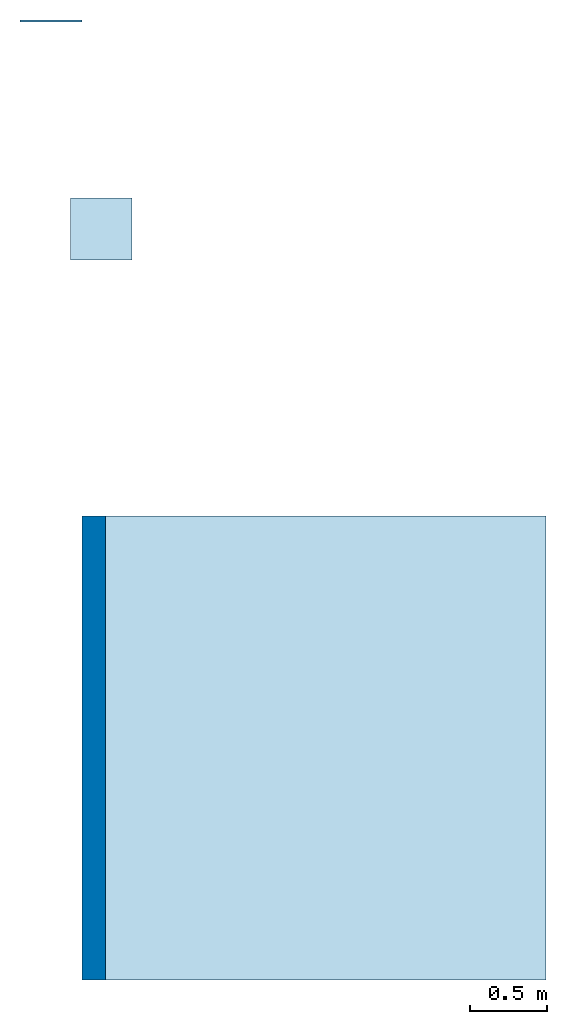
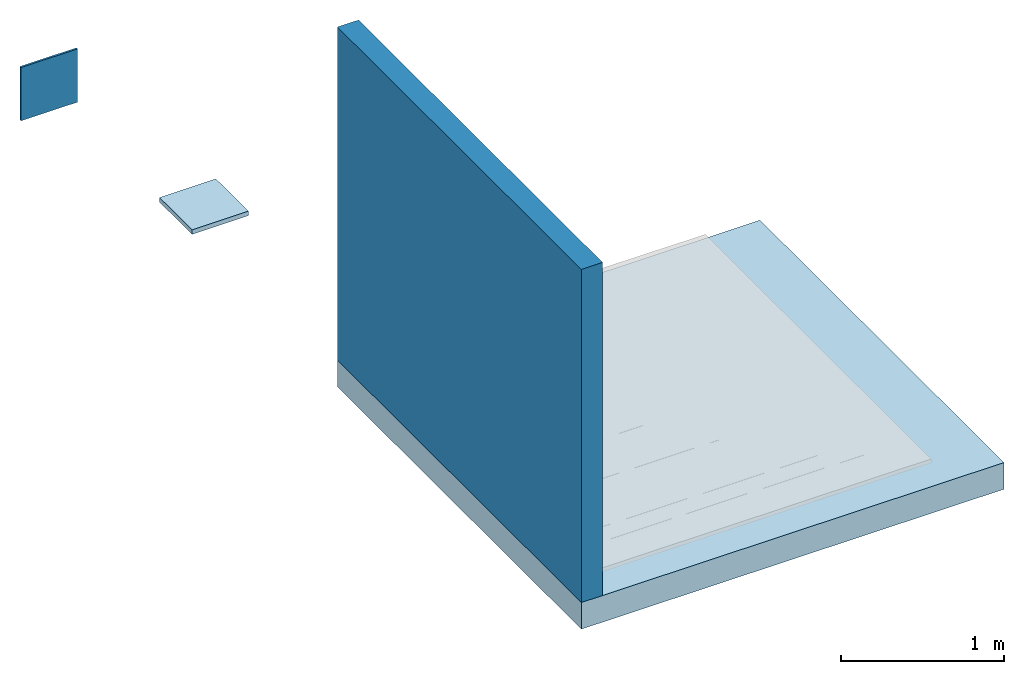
# One storey, part 1 of 2: 2 slabs, 2 walls.
"""IFC2X3 building model written with IfcOpenShell, lengths in metres."""

from ifc_helpers import new_model, entity, si_unit, converted_unit, derived_unit, direction, frame, frame_2d, origin, origin_2d_with_axis, place, context, subcontext, project, spatial, rectangle, extrude, material, layer, layer_set, layer_usage, type_object, element, save


model = new_model("IFC2X3")

# Units and contexts
model_context = context("Model", 3, precision=1e-05, world=origin(), true_north=direction((6.123031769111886e-17, 1.0)))
body_context = subcontext(model_context, "Body", "Model", "MODEL_VIEW")
ifc_project = project(units=[si_unit("LENGTHUNIT", "METRE"), si_unit("AREAUNIT", "SQUARE_METRE"), si_unit("VOLUMEUNIT", "CUBIC_METRE"), converted_unit("PLANEANGLEUNIT", "DEGREE", entity("IfcRatioMeasure", 0.017453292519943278), si_unit("PLANEANGLEUNIT", "RADIAN"), dimensions=[0, 0, 0, 0, 0, 0, 0]), si_unit("MASSUNIT", "GRAM", prefix="KILO"), derived_unit("MASSDENSITYUNIT", [(si_unit("MASSUNIT", "GRAM", prefix="KILO"), 1), (si_unit("LENGTHUNIT", "METRE"), -3)]), derived_unit("IONCONCENTRATIONUNIT", [(si_unit("MASSUNIT", "GRAM", prefix="KILO"), 1), (si_unit("LENGTHUNIT", "METRE"), -3)]), derived_unit("MOMENTOFINERTIAUNIT", [(si_unit("LENGTHUNIT", "METRE"), 4)]), si_unit("TIMEUNIT", "SECOND"), si_unit("FREQUENCYUNIT", "HERTZ"), si_unit("THERMODYNAMICTEMPERATUREUNIT", "DEGREE_CELSIUS"), derived_unit("THERMALTRANSMITTANCEUNIT", [(si_unit("MASSUNIT", "GRAM", prefix="KILO"), 1), (si_unit("THERMODYNAMICTEMPERATUREUNIT", "KELVIN"), -1), (si_unit("TIMEUNIT", "SECOND"), -3)]), derived_unit("THERMALCONDUCTANCEUNIT", [(si_unit("MASSUNIT", "GRAM", prefix="KILO"), 1), (si_unit("THERMODYNAMICTEMPERATUREUNIT", "KELVIN"), -1), (si_unit("TIMEUNIT", "SECOND"), -3), (si_unit("LENGTHUNIT", "METRE"), 1)]), derived_unit("VOLUMETRICFLOWRATEUNIT", [(si_unit("LENGTHUNIT", "METRE"), 3), (si_unit("TIMEUNIT", "SECOND"), -1)]), derived_unit("MASSFLOWRATEUNIT", [(si_unit("MASSUNIT", "GRAM", prefix="KILO"), 1), (si_unit("TIMEUNIT", "SECOND"), -1)]), derived_unit("ROTATIONALFREQUENCYUNIT", [(si_unit("TIMEUNIT", "SECOND"), -1)]), si_unit("ELECTRICCURRENTUNIT", "AMPERE"), si_unit("ELECTRICVOLTAGEUNIT", "VOLT"), si_unit("POWERUNIT", "WATT"), si_unit("FORCEUNIT", "NEWTON", prefix="KILO"), si_unit("ILLUMINANCEUNIT", "LUX"), si_unit("LUMINOUSFLUXUNIT", "LUMEN"), si_unit("LUMINOUSINTENSITYUNIT", "CANDELA"), derived_unit("USERDEFINED", [(si_unit("MASSUNIT", "GRAM", prefix="KILO"), -1), (si_unit("LENGTHUNIT", "METRE"), -2), (si_unit("TIMEUNIT", "SECOND"), 3), (si_unit("LUMINOUSFLUXUNIT", "LUMEN"), 1)]), derived_unit("USERDEFINED", [(si_unit("MASSUNIT", "GRAM", prefix="KILO"), 1), (si_unit("TIMEUNIT", "SECOND"), -3), (si_unit("LENGTHUNIT", "METRE"), 3), (si_unit("ELECTRICCURRENTUNIT", "AMPERE"), -2)]), derived_unit("SOUNDPOWERUNIT", [(si_unit("MASSUNIT", "GRAM", prefix="KILO"), 1), (si_unit("TIMEUNIT", "SECOND"), -3), (si_unit("LENGTHUNIT", "METRE"), 2)]), derived_unit("SOUNDPRESSUREUNIT", [(si_unit("MASSUNIT", "GRAM", prefix="KILO"), 1), (si_unit("LENGTHUNIT", "METRE"), -1), (si_unit("TIMEUNIT", "SECOND"), -2)]), derived_unit("LINEARVELOCITYUNIT", [(si_unit("LENGTHUNIT", "METRE"), 1), (si_unit("TIMEUNIT", "SECOND"), -1)]), si_unit("PRESSUREUNIT", "PASCAL"), derived_unit("USERDEFINED", [(si_unit("MASSUNIT", "GRAM", prefix="KILO"), 1), (si_unit("LENGTHUNIT", "METRE"), -2), (si_unit("TIMEUNIT", "SECOND"), -2)]), derived_unit("LINEARFORCEUNIT", [(si_unit("MASSUNIT", "GRAM", prefix="KILO"), 1), (si_unit("TIMEUNIT", "SECOND"), -2)]), derived_unit("PLANARFORCEUNIT", [(si_unit("MASSUNIT", "GRAM", prefix="KILO"), 1), (si_unit("LENGTHUNIT", "METRE"), -1), (si_unit("TIMEUNIT", "SECOND"), -2)]), derived_unit("SPECIFICHEATCAPACITYUNIT", [(si_unit("THERMODYNAMICTEMPERATUREUNIT", "KELVIN"), -1), (si_unit("LENGTHUNIT", "METRE"), 2), (si_unit("TIMEUNIT", "SECOND"), -2)]), derived_unit("HEATINGVALUEUNIT", [(si_unit("LENGTHUNIT", "METRE"), 2), (si_unit("TIMEUNIT", "SECOND"), -2)]), derived_unit("VAPORPERMEABILITYUNIT", [(si_unit("LENGTHUNIT", "METRE"), -1), (si_unit("TIMEUNIT", "SECOND"), 1)]), derived_unit("DYNAMICVISCOSITYUNIT", [(si_unit("MASSUNIT", "GRAM", prefix="KILO"), 1), (si_unit("TIMEUNIT", "SECOND"), -1), (si_unit("LENGTHUNIT", "METRE"), -1)]), derived_unit("THERMALEXPANSIONCOEFFICIENTUNIT", [(si_unit("THERMODYNAMICTEMPERATUREUNIT", "KELVIN"), -1)]), derived_unit("MODULUSOFELASTICITYUNIT", [(si_unit("MASSUNIT", "GRAM", prefix="KILO"), 1), (si_unit("LENGTHUNIT", "METRE"), -1), (si_unit("TIMEUNIT", "SECOND"), -2)]), derived_unit("ISOTHERMALMOISTURECAPACITYUNIT", [(si_unit("LENGTHUNIT", "METRE"), 3), (si_unit("MASSUNIT", "GRAM", prefix="KILO"), -1)]), derived_unit("MOISTUREDIFFUSIVITYUNIT", [(si_unit("TIMEUNIT", "SECOND"), -1), (si_unit("LENGTHUNIT", "METRE"), 2)])], contexts=[model_context])

# Site, building, storey
site_placement = place(None, origin())
site = spatial("IfcSite", under=ifc_project, at=site_placement, Name="Default", CompositionType="ELEMENT")
building_placement = place(site_placement, origin())
building = spatial("IfcBuilding", under=site, at=building_placement, CompositionType="ELEMENT")
storey_placement = place(building_placement, frame((0.0, 0.0, -0.0025237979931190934)))
storey = spatial("IfcBuildingStorey", under=building, at=storey_placement, Name="ARQ Térreo", CompositionType="ELEMENT", Elevation=-0.0025237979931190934)

# Slabs
ifc_material_1 = material(Name="#concreto")
ifc_layer_1 = layer(ifc_material_1, 0.2)
ifc_layer_set_1 = layer_set([ifc_layer_1], Name="Piso:Piso:LAJE CONCRETO")
ifc_layer_usage_1 = layer_usage(ifc_layer_set_1, "AXIS3", "POSITIVE", 0.0)
slab_type_1 = type_object("IfcSlabType", Name="Piso:Piso:LAJE CONCRETO", PredefinedType="FLOOR", material=ifc_layer_set_1)
slab_1_placement = place(storey_placement, origin())
element("IfcSlab", 1, at=slab_1_placement, inside=storey, type_object=slab_type_1, material=ifc_layer_usage_1, Name="Piso:Piso:LAJE CONCRETO", ObjectType="Piso:Piso:LAJE CONCRETO", PredefinedType="FLOOR", context=body_context, shape_type="SweptSolid", body=[
    extrude(rectangle(XDim=3.0000000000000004, YDim=3.0000000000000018, at=origin_2d_with_axis()), frame((0.9980295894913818, -1.354129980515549, 0.0), z_axis=(0.0, 0.0, -1.0), x_axis=(0.0, 1.0, 0.0)), (0.0, 0.0, 1.0), 0.2),
])
ifc_material_2 = material(Name="#Vulkem 346")
ifc_layer_2 = layer(ifc_material_2, 0.0009999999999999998)
ifc_material_3 = material(Name="#Vulkem 345")
ifc_layer_3 = layer(ifc_material_3, 0.0009999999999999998)
ifc_material_4 = material(Name="#Vulkem 350NF")
ifc_layer_4 = layer(ifc_material_4, 0.0009999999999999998)
ifc_material_5 = material(Name="#Vulkem 171 Primer")
ifc_layer_5 = layer(ifc_material_5, 0.0009999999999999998)
ifc_material_6 = material(Name="#argamassa")
ifc_layer_6 = layer(ifc_material_6, 0.03)
ifc_layer_set_2 = layer_set([ifc_layer_2, ifc_layer_3, ifc_layer_4, ifc_layer_5, ifc_layer_6], Name="Piso:IMPH_VLK vagas")
ifc_layer_usage_2 = layer_usage(ifc_layer_set_2, "AXIS3", "POSITIVE", 0.0)
slab_type_2 = type_object("IfcSlabType", Name="Piso:IMPH_VLK vagas", PredefinedType="FLOOR", material=ifc_layer_set_2)
slab_2_placement = place(storey_placement, origin())
element("IfcSlab", 2, at=slab_2_placement, inside=storey, type_object=slab_type_2, material=ifc_layer_usage_2, Name="Piso:IMPH_VLK vagas", ObjectType="Piso:IMPH_VLK vagas", PredefinedType="FLOOR", context=body_context, shape_type="SweptSolid", body=[
    extrude(rectangle(XDim=0.4, YDim=0.4000000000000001, at=frame_2d((0.0, -2.7755575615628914e-17), x_axis=(1.0, 0.0))), frame((-0.3777383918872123, 2.001958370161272, 0.0), z_axis=(0.0, 0.0, -1.0), x_axis=(0.0, 1.0, 0.0)), (0.0, 0.0, 1.0), 0.034),
])

# Walls
ifc_layer_7 = layer(ifc_material_1, 0.14999999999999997)
ifc_layer_set_3 = layer_set([ifc_layer_7], Name="Parede básica:Parede básica:Parede Concreto")
ifc_layer_usage_3 = layer_usage(ifc_layer_set_3, "AXIS2", "NEGATIVE", 0.07499999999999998)
wall_type_1 = type_object("IfcWallType", Name="Parede básica:Parede básica:Parede Concreto", PredefinedType="STANDARD", material=ifc_layer_set_3)
wall_1_placement = place(storey_placement, frame((-0.4269704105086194, 0.14587001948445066, 0.0), z_axis=(0.0, 0.0, 1.0), x_axis=(0.0, -1.0, 0.0)))
element("IfcWallStandardCase", 3, at=wall_1_placement, inside=storey, type_object=wall_type_1, material=ifc_layer_usage_3, Name="Parede básica:Parede Concreto", ObjectType="Parede básica:Parede Concreto", context=body_context, shape_type="SweptSolid", body=[
    extrude(rectangle(XDim=2.9999999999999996, YDim=0.15000000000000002, at=frame_2d((1.4999999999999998, 0.0), x_axis=(-1.0, 0.0))), origin(), (0.0, 0.0, 1.0), 2.4999999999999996),
])
ifc_layer_8 = layer(ifc_material_2, 0.0009999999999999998)
ifc_layer_9 = layer(ifc_material_3, 0.0009999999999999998)
ifc_layer_10 = layer(ifc_material_4, 0.0009999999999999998)
ifc_layer_11 = layer(ifc_material_5, 0.0009999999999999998)
ifc_layer_12 = layer(ifc_material_6, 0.01)
ifc_layer_set_4 = layer_set([ifc_layer_8, ifc_layer_9, ifc_layer_10, ifc_layer_11, ifc_layer_12], Name="Parede básica:IMPV_VLK vagas")
ifc_layer_usage_4 = layer_usage(ifc_layer_set_4, "AXIS2", "NEGATIVE", 0.007)
wall_type_2 = type_object("IfcWallType", Name="Parede básica:IMPV_VLK vagas", PredefinedType="STANDARD", material=ifc_layer_set_4)
wall_2_placement = place(storey_placement, frame((-0.5034077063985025, 3.345870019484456, 0.0), z_axis=(0.0, 0.0, 1.0), x_axis=(-1.0, 0.0, 0.0)))
element("IfcWallStandardCase", 4, at=wall_2_placement, inside=storey, type_object=wall_type_2, material=ifc_layer_usage_4, Name="Parede básica:IMPV_VPECO", ObjectType="Parede básica:IMPV_VPECO", context=body_context, shape_type="SweptSolid", body=[
    extrude(rectangle(XDim=0.4000000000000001, YDim=0.014000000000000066, at=frame_2d((0.20000000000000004, -1.1405806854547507e-16), x_axis=(-1.0, 0.0))), origin(), (0.0, 0.0, 1.0), 0.4),
])

save(model, "model.ifc")
